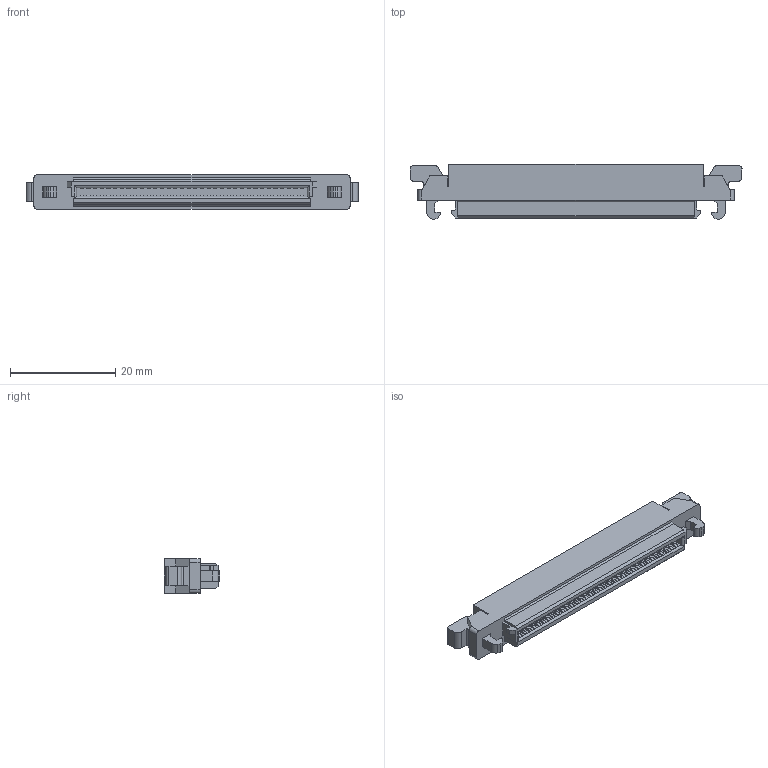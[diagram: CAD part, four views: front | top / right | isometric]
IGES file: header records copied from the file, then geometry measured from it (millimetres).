
Start section: Elysium IGES Interface
Global section: file name: 99HF:\恾柺搊榐\3DCAD\89XX\仛89钾敖迱粫i3D仛\web梡恾柺仛\4-IGES(恾斣_惢昳柤)\P39478_8925R-068-179-F.igs; native system: Creo Elements/Direct Modeling 20.4A  18-Oct-2021; preprocessor: Creo Element/Direct IGES_3D V2.2; author: Unknown; organization: Unknown; date: 20230227.134812; units: millimetre
Bounding box: 63.12 x 10.5 x 6.6 mm (x, y, z)
Volume: 3132.1 mm3; surface area: 2449 mm2
Topology: 1 solids, 1 shells, 468 faces, 1372 edges, 910 vertices
Faces by surface type: bspline 468
